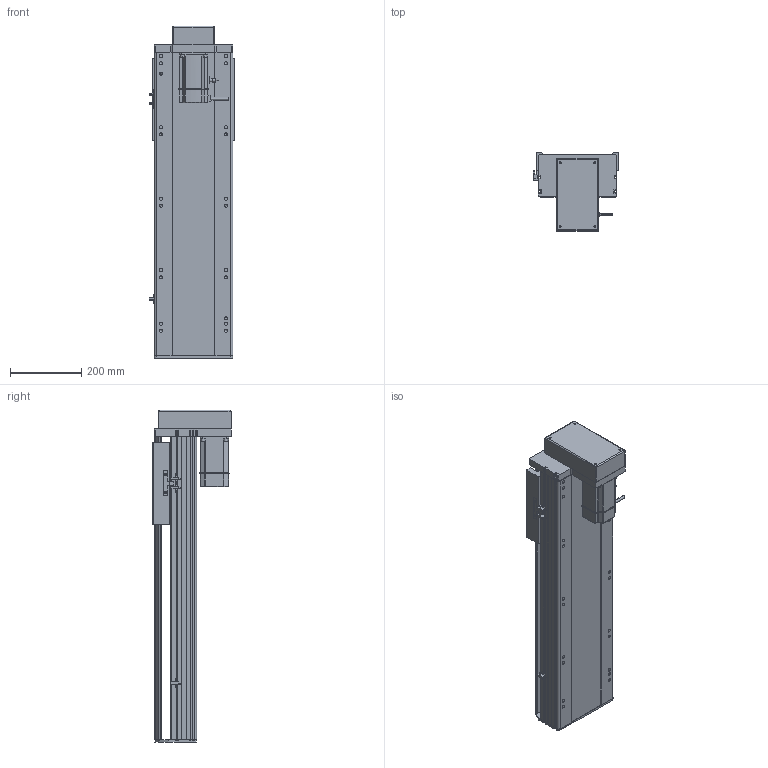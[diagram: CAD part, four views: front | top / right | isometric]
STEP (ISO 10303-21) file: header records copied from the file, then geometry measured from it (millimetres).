
FILE_DESCRIPTION (( 'STEP AP214' ), '1' );
FILE_NAME ('RTH22-XX-550-M-M75-C4.STEP', '2025-10-24T11:08:17', ( 'Microsoft' ), ( 'Microsoft' ), 'SwSTEP 2.0', 'SolidWorks 2018', '' );
FILE_SCHEMA (( 'AUTOMOTIVE_DESIGN' ));
Length unit declared in the file: millimetre
Products named in the file (10): N_RTH22-GY-001耜裔^RTH22-XX-XX-M-M75-C4; N_RTH22-L-004-SFS25賑釱^RTH22-XX-XX-M-M75-C4; N_750W萇儂^RTH22-XX-XX-M-M75-C4; RTH22-XX-550-M-M75-C4; N_RTH22-M-007奻裔^RTH22-XX-XX-M-M75-C4; N_RTH22-M-018裔赽^RTH22-XX-XX-M-M75-C4; N_RTH22-M-008-P75萇儂啣^RTH22-XX-XX-M-M75-C4; N_RTH22-GY-013外置感应片^RTH22-XX-XX-M-M75-C4; N_OMRON EE-SX672 传感器^RTH22-XX-XX-M-M75-C4; N_RTH22-L-011菁釱^RTH22-XX-XX-M-M75-C4
Assembly tree (11 placements, depth 2):
  RTH22-XX-550-M-M75-C4
    N_RTH22-L-011菁釱^RTH22-XX-XX-M-M75-C4
    N_RTH22-GY-001耜裔^RTH22-XX-XX-M-M75-C4
    N_750W萇儂^RTH22-XX-XX-M-M75-C4
    N_RTH22-M-008-P75萇儂啣^RTH22-XX-XX-M-M75-C4
    N_RTH22-M-007奻裔^RTH22-XX-XX-M-M75-C4
    N_RTH22-M-018裔赽^RTH22-XX-XX-M-M75-C4
    N_OMRON EE-SX672 传感器^RTH22-XX-XX-M-M75-C4  x3
    N_RTH22-GY-013外置感应片^RTH22-XX-XX-M-M75-C4
    N_RTH22-L-004-SFS25賑釱^RTH22-XX-XX-M-M75-C4
Bounding box: 238.5 x 218.5 x 929.7 mm (x, y, z)
Volume: 13582269.4 mm3; surface area: 1545220.9 mm2
Topology: 11 solids, 11 shells, 1587 faces, 4330 edges, 2795 vertices
Faces by surface type: plane 803, cylinder 451, bspline 279, cone 54
Entity records: 39683 total; most frequent: CARTESIAN_POINT 12068, ORIENTED_EDGE 5644, DIRECTION 5296, EDGE_CURVE 2822, VERTEX_POINT 1831, LINE 1770, VECTOR 1770, AXIS2_PLACEMENT_3D 1763
